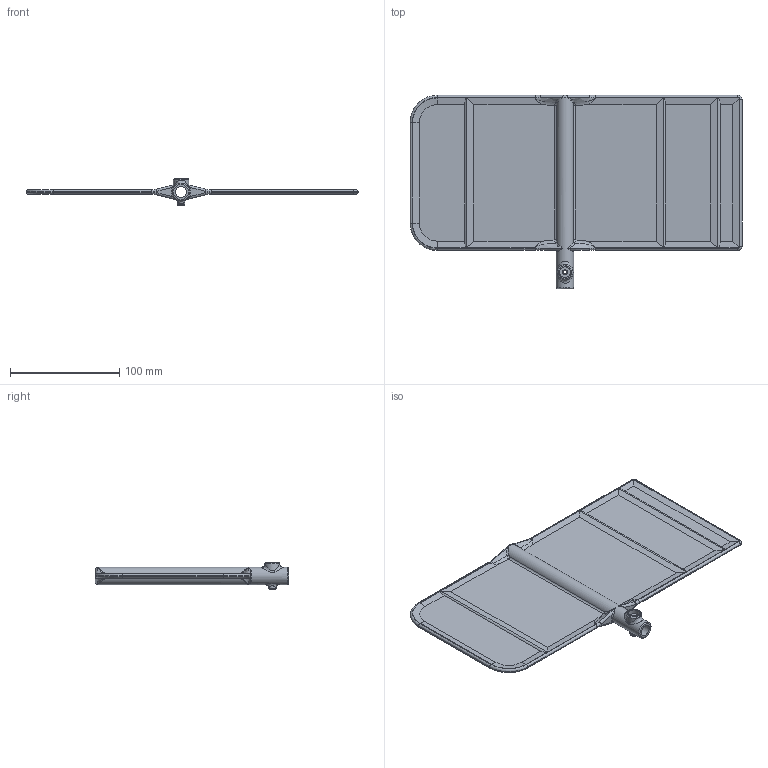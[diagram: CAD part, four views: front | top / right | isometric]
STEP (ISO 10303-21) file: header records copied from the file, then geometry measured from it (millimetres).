
FILE_DESCRIPTION(/* description */ ('ELICA COMPLETA AC13 PLASTICA - 2 PALE 304x142 (D3998)'),/* implementation_level */ '2;1');
FILE_NAME(/* name */ 'AC13.stp',/* time_stamp */ '2024-03-22T11:13:45+01:00',/* author */ ('filippo.guidetti'),/* organization */ (''),/* preprocessor_version */ 'ST-DEVELOPER v20',/* originating_system */ 'Autodesk Inventor 2024',/* authorisation */ 'Giovanni Guazzetti');
FILE_SCHEMA (('AUTOMOTIVE_DESIGN { 1 0 10303 214 3 1 1 }'));
Length unit declared in the file: millimetre
Products named in the file (1): 0404_017_0
Bounding box: 304 x 177 x 24 mm (x, y, z)
Volume: 115876.4 mm3; surface area: 98336.1 mm2
Topology: 1 solids, 1 shells, 209 faces, 543 edges, 318 vertices
Faces by surface type: cylinder 75, plane 65, bspline 38, torus 27, cone 4
Full cylindrical faces by diameter (mm): 3.2 x1, 4.7 x1, 10 x1, 10.2 x1, 16 x1
Entity records: 8781 total; most frequent: CARTESIAN_POINT 3929, ORIENTED_EDGE 1046, DIRECTION 957, EDGE_CURVE 523, AXIS2_PLACEMENT_3D 371, VERTEX_POINT 318, EDGE_LOOP 217, LINE 215
